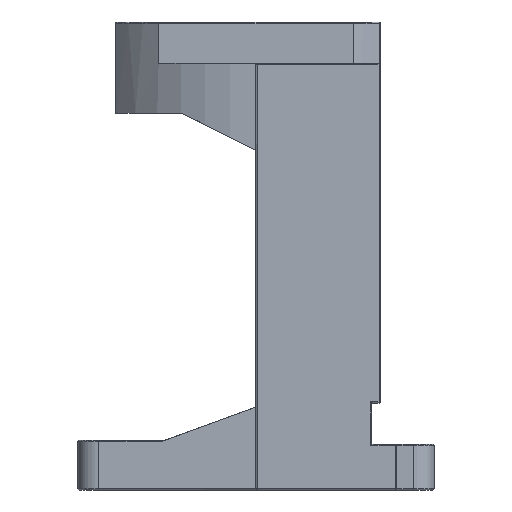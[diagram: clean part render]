
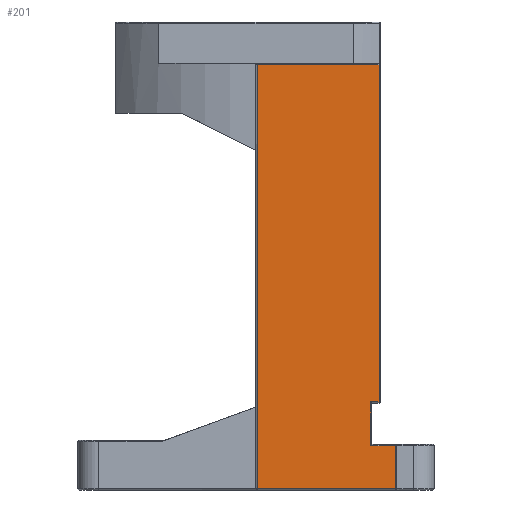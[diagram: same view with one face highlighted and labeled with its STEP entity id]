
A CAD part, left-side view. The second image highlights one B-rep face of the part: STEP entity #201.
In plain terms, the highlighted planar face has unit normal (-1, 0, 0).
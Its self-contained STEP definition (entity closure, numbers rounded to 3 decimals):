
#201 = ADVANCED_FACE ( 'NONE', ( #4389 ), #3988, .F. ) ;
#389 = ORIENTED_EDGE ( 'NONE', *, *, #6283, .T. ) ;
#438 = CARTESIAN_POINT ( 'NONE',  ( -44., -27.7, 15.3 ) ) ;
#703 = ORIENTED_EDGE ( 'NONE', *, *, #6058, .T. ) ;
#819 = EDGE_LOOP ( 'NONE', ( #1686, #3854, #389, #703, #3465, #4941, #2932, #3234 ) ) ;
#1079 = CARTESIAN_POINT ( 'NONE',  ( -44., -0.3, 96.7 ) ) ;
#1132 = AXIS2_PLACEMENT_3D ( 'NONE', #4015, #4030, #4054 ) ;
#1265 = EDGE_CURVE ( 'NONE', #4870, #5588, #1959, .T. ) ;
#1285 = VECTOR ( 'NONE', #2272, 1000. ) ;
#1583 = VECTOR ( 'NONE', #3819, 1000. ) ;
#1686 = ORIENTED_EDGE ( 'NONE', *, *, #3252, .T. ) ;
#1769 = LINE ( 'NONE', #2765, #4227 ) ;
#1840 = VECTOR ( 'NONE', #4966, 1000. ) ;
#1881 = VERTEX_POINT ( 'NONE', #5132 ) ;
#1926 = CARTESIAN_POINT ( 'NONE',  ( -44., -29.7, 96.7 ) ) ;
#1959 = LINE ( 'NONE', #6255, #3126 ) ;
#1971 = VERTEX_POINT ( 'NONE', #6162 ) ;
#2078 = CARTESIAN_POINT ( 'NONE',  ( -44., -27.7, 97. ) ) ;
#2100 = DIRECTION ( 'NONE',  ( 0., 0., 1. ) ) ;
#2215 = CARTESIAN_POINT ( 'NONE',  ( -44., -33.7, 4.7 ) ) ;
#2272 = DIRECTION ( 'NONE',  ( 0., 1., 0. ) ) ;
#2533 = DIRECTION ( 'NONE',  ( 0., -1., 0. ) ) ;
#2571 = CARTESIAN_POINT ( 'NONE',  ( -44., 0., 96.7 ) ) ;
#2642 = CARTESIAN_POINT ( 'NONE',  ( -44., -27.7, 4.7 ) ) ;
#2664 = VECTOR ( 'NONE', #2100, 1000. ) ;
#2765 = CARTESIAN_POINT ( 'NONE',  ( -44., -34., -5.7 ) ) ;
#2930 = CARTESIAN_POINT ( 'NONE',  ( -44., -29.7, 15.3 ) ) ;
#2932 = ORIENTED_EDGE ( 'NONE', *, *, #4533, .T. ) ;
#2952 = DIRECTION ( 'NONE',  ( 0., 0., 1. ) ) ;
#3126 = VECTOR ( 'NONE', #5858, 1000. ) ;
#3222 = LINE ( 'NONE', #2571, #1285 ) ;
#3234 = ORIENTED_EDGE ( 'NONE', *, *, #4310, .T. ) ;
#3237 = VECTOR ( 'NONE', #5861, 1000. ) ;
#3252 = EDGE_CURVE ( 'NONE', #1881, #4870, #3398, .T. ) ;
#3373 = LINE ( 'NONE', #3518, #4549 ) ;
#3398 = LINE ( 'NONE', #5841, #3237 ) ;
#3465 = ORIENTED_EDGE ( 'NONE', *, *, #5172, .T. ) ;
#3518 = CARTESIAN_POINT ( 'NONE',  ( -44., -29.7, 97. ) ) ;
#3640 = VERTEX_POINT ( 'NONE', #438 ) ;
#3748 = CARTESIAN_POINT ( 'NONE',  ( -44., -34., 15.3 ) ) ;
#3819 = DIRECTION ( 'NONE',  ( 0., -1., 0. ) ) ;
#3854 = ORIENTED_EDGE ( 'NONE', *, *, #1265, .T. ) ;
#3988 = PLANE ( 'NONE',  #1132 ) ;
#4015 = CARTESIAN_POINT ( 'NONE',  ( -44., -34., 97. ) ) ;
#4030 = DIRECTION ( 'NONE',  ( 1., 0., 0. ) ) ;
#4054 = DIRECTION ( 'NONE',  ( 0., -1., 0. ) ) ;
#4227 = VECTOR ( 'NONE', #2533, 1000. ) ;
#4310 = EDGE_CURVE ( 'NONE', #1971, #1881, #1769, .T. ) ;
#4389 = FACE_OUTER_BOUND ( 'NONE', #819, .T. ) ;
#4507 = VERTEX_POINT ( 'NONE', #2930 ) ;
#4533 = EDGE_CURVE ( 'NONE', #5619, #1971, #5610, .T. ) ;
#4549 = VECTOR ( 'NONE', #2952, 1000. ) ;
#4855 = EDGE_CURVE ( 'NONE', #6354, #5619, #3222, .T. ) ;
#4870 = VERTEX_POINT ( 'NONE', #2215 ) ;
#4941 = ORIENTED_EDGE ( 'NONE', *, *, #4855, .T. ) ;
#4966 = DIRECTION ( 'NONE',  ( 0., 0., -1. ) ) ;
#4985 = CARTESIAN_POINT ( 'NONE',  ( -44., -0.3, 97. ) ) ;
#5132 = CARTESIAN_POINT ( 'NONE',  ( -44., -33.7, -5.7 ) ) ;
#5172 = EDGE_CURVE ( 'NONE', #4507, #6354, #3373, .T. ) ;
#5284 = LINE ( 'NONE', #2078, #2664 ) ;
#5517 = LINE ( 'NONE', #3748, #1583 ) ;
#5588 = VERTEX_POINT ( 'NONE', #2642 ) ;
#5610 = LINE ( 'NONE', #4985, #1840 ) ;
#5619 = VERTEX_POINT ( 'NONE', #1079 ) ;
#5841 = CARTESIAN_POINT ( 'NONE',  ( -44., -33.7, 5. ) ) ;
#5858 = DIRECTION ( 'NONE',  ( 0., 1., 0. ) ) ;
#5861 = DIRECTION ( 'NONE',  ( 0., 0., 1. ) ) ;
#6058 = EDGE_CURVE ( 'NONE', #3640, #4507, #5517, .T. ) ;
#6162 = CARTESIAN_POINT ( 'NONE',  ( -44., -0.3, -5.7 ) ) ;
#6255 = CARTESIAN_POINT ( 'NONE',  ( -44., -34., 4.7 ) ) ;
#6283 = EDGE_CURVE ( 'NONE', #5588, #3640, #5284, .T. ) ;
#6354 = VERTEX_POINT ( 'NONE', #1926 ) ;
